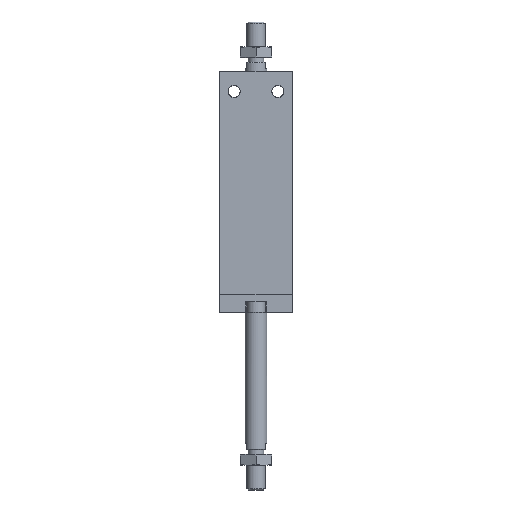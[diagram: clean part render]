
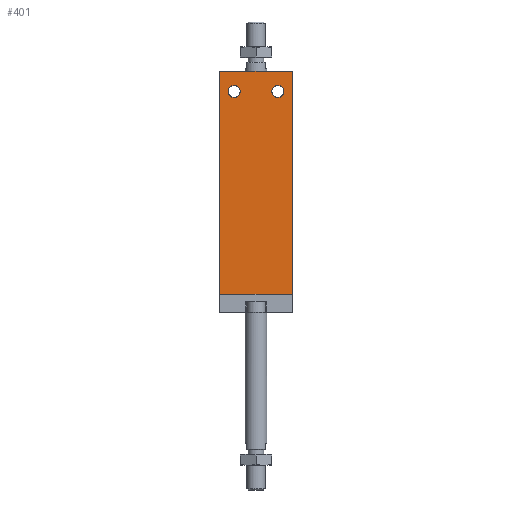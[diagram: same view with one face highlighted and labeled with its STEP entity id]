
A CAD part, front view. The second image highlights one B-rep face of the part: STEP entity #401.
In plain terms, the highlighted planar face has unit normal (0, -1, 0).
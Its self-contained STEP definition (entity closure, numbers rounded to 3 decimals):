
#401 = ADVANCED_FACE( '', ( #936, #937, #938 ), #939, .T. );
#936 = FACE_BOUND( '', #1692, .T. );
#937 = FACE_BOUND( '', #1693, .T. );
#938 = FACE_OUTER_BOUND( '', #1694, .T. );
#939 = PLANE( '', #1695 );
#1692 = EDGE_LOOP( '', ( #2629 ) );
#1693 = EDGE_LOOP( '', ( #2630 ) );
#1694 = EDGE_LOOP( '', ( #2631, #2632, #2633, #2634 ) );
#1695 = AXIS2_PLACEMENT_3D( '', #2635, #2636, #2637 );
#2629 = ORIENTED_EDGE( '', *, *, #4344, .F. );
#2630 = ORIENTED_EDGE( '', *, *, #4345, .F. );
#2631 = ORIENTED_EDGE( '', *, *, #4346, .F. );
#2632 = ORIENTED_EDGE( '', *, *, #4347, .F. );
#2633 = ORIENTED_EDGE( '', *, *, #4348, .T. );
#2634 = ORIENTED_EDGE( '', *, *, #4349, .T. );
#2635 = CARTESIAN_POINT( '', ( -19.8, -31., -122. ) );
#2636 = DIRECTION( '', ( 0., -1., 0. ) );
#2637 = DIRECTION( '', ( 1., 0., 0. ) );
#4344 = EDGE_CURVE( '', #5185, #5185, #5186, .T. );
#4345 = EDGE_CURVE( '', #5187, #5187, #5188, .T. );
#4346 = EDGE_CURVE( '', #5189, #5190, #5191, .T. );
#4347 = EDGE_CURVE( '', #5192, #5189, #5193, .T. );
#4348 = EDGE_CURVE( '', #5192, #5194, #5195, .T. );
#4349 = EDGE_CURVE( '', #5194, #5190, #5196, .T. );
#5185 = VERTEX_POINT( '', #6895 );
#5186 = CIRCLE( '', #6896, 3.3 );
#5187 = VERTEX_POINT( '', #6897 );
#5188 = CIRCLE( '', #6898, 3.3 );
#5189 = VERTEX_POINT( '', #6899 );
#5190 = VERTEX_POINT( '', #6900 );
#5191 = LINE( '', #6901, #6902 );
#5192 = VERTEX_POINT( '', #6903 );
#5193 = LINE( '', #6904, #6905 );
#5194 = VERTEX_POINT( '', #6906 );
#5195 = LINE( '', #6907, #6908 );
#5196 = LINE( '', #6909, #6910 );
#6895 = CARTESIAN_POINT( '', ( -12., -31., -14.3 ) );
#6896 = AXIS2_PLACEMENT_3D( '', #8537, #8538, #8539 );
#6897 = CARTESIAN_POINT( '', ( 12., -31., -14.3 ) );
#6898 = AXIS2_PLACEMENT_3D( '', #8540, #8541, #8542 );
#6899 = CARTESIAN_POINT( '', ( -19.8, -31., 0. ) );
#6900 = CARTESIAN_POINT( '', ( 19.8, -31., 0. ) );
#6901 = CARTESIAN_POINT( '', ( -19.8, -31., 0. ) );
#6902 = VECTOR( '', #8543, 1000. );
#6903 = CARTESIAN_POINT( '', ( -19.8, -31., -122. ) );
#6904 = CARTESIAN_POINT( '', ( -19.8, -31., -122. ) );
#6905 = VECTOR( '', #8544, 1000. );
#6906 = CARTESIAN_POINT( '', ( 19.8, -31., -122. ) );
#6907 = CARTESIAN_POINT( '', ( -19.8, -31., -122. ) );
#6908 = VECTOR( '', #8545, 1000. );
#6909 = CARTESIAN_POINT( '', ( 19.8, -31., -122. ) );
#6910 = VECTOR( '', #8546, 1000. );
#8537 = CARTESIAN_POINT( '', ( -12., -31., -11. ) );
#8538 = DIRECTION( '', ( 0., -1., 0. ) );
#8539 = DIRECTION( '', ( 0., 0., -1. ) );
#8540 = CARTESIAN_POINT( '', ( 12., -31., -11. ) );
#8541 = DIRECTION( '', ( 0., -1., 0. ) );
#8542 = DIRECTION( '', ( 0., 0., -1. ) );
#8543 = DIRECTION( '', ( 1., 0., 0. ) );
#8544 = DIRECTION( '', ( 0., 0., 1. ) );
#8545 = DIRECTION( '', ( 1., 0., 0. ) );
#8546 = DIRECTION( '', ( 0., 0., 1. ) );
